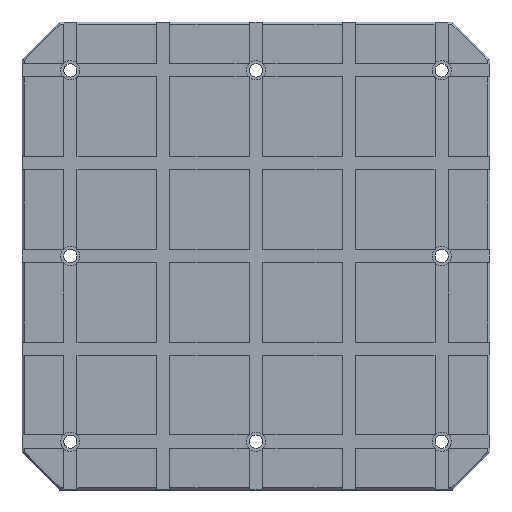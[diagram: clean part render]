
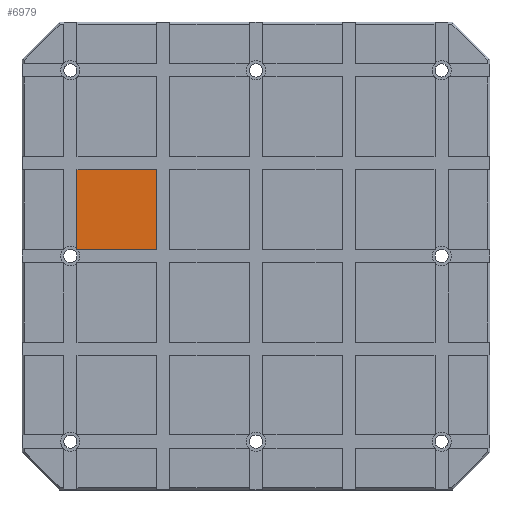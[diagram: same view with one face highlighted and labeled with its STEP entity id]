
A CAD part, top view. The second image highlights one B-rep face of the part: STEP entity #6979.
In plain terms, the highlighted planar face has unit normal (0, 0, 1).
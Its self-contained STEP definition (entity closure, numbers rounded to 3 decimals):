
#357=CARTESIAN_POINT('',(-250.,0.,30.));
#358=DIRECTION('',(0.,0.,1.));
#359=DIRECTION('',(0.722,0.692,0.));
#360=AXIS2_PLACEMENT_3D('',#357,#358,#359);
#362=DIRECTION('',(0.,1.,0.));
#363=VECTOR('',#362,106.619);
#364=CARTESIAN_POINT('',(-241.,9.381,30.));
#365=LINE('',#364,#363);
#366=DIRECTION('',(1.,0.,0.));
#367=VECTOR('',#366,107.);
#368=CARTESIAN_POINT('',(-241.,116.,30.));
#369=LINE('',#368,#367);
#370=DIRECTION('',(0.,1.,0.));
#371=VECTOR('',#370,107.);
#372=CARTESIAN_POINT('',(-134.,9.,30.));
#373=LINE('',#372,#371);
#374=DIRECTION('',(1.,0.,0.));
#375=VECTOR('',#374,106.619);
#376=CARTESIAN_POINT('',(-240.619,9.,30.));
#377=LINE('',#376,#375);
#5477=CARTESIAN_POINT('',(-134.,9.,30.));
#5478=CARTESIAN_POINT('',(-134.,116.,30.));
#5479=VERTEX_POINT('',#5477);
#5480=VERTEX_POINT('',#5478);
#5702=CARTESIAN_POINT('',(-241.,116.,30.));
#5704=VERTEX_POINT('',#5702);
#6102=CARTESIAN_POINT('',(-241.,9.381,30.));
#6104=VERTEX_POINT('',#6102);
#6146=CARTESIAN_POINT('',(-240.619,9.,30.));
#6148=VERTEX_POINT('',#6146);
#6963=CARTESIAN_POINT('',(0.,0.,30.));
#6964=DIRECTION('',(0.,0.,1.));
#6965=DIRECTION('',(1.,0.,0.));
#6966=AXIS2_PLACEMENT_3D('',#6963,#6964,#6965);
#6967=PLANE('',#6966);
#6968=ORIENTED_EDGE('',*,*,#6907,.T.);
#6970=ORIENTED_EDGE('',*,*,#6969,.T.);
#6972=ORIENTED_EDGE('',*,*,#6971,.T.);
#6974=ORIENTED_EDGE('',*,*,#6973,.F.);
#6976=ORIENTED_EDGE('',*,*,#6975,.F.);
#6977=EDGE_LOOP('',(#6968,#6970,#6972,#6974,#6976));
#6978=FACE_OUTER_BOUND('',#6977,.F.);
#6979=ADVANCED_FACE('',(#6978),#6967,.T.);
#361=CIRCLE('',#360,13.);
#6907=EDGE_CURVE('',#6148,#6104,#361,.T.);
#6969=EDGE_CURVE('',#6104,#5704,#365,.T.);
#6971=EDGE_CURVE('',#5704,#5480,#369,.T.);
#6973=EDGE_CURVE('',#5479,#5480,#373,.T.);
#6975=EDGE_CURVE('',#6148,#5479,#377,.T.);
